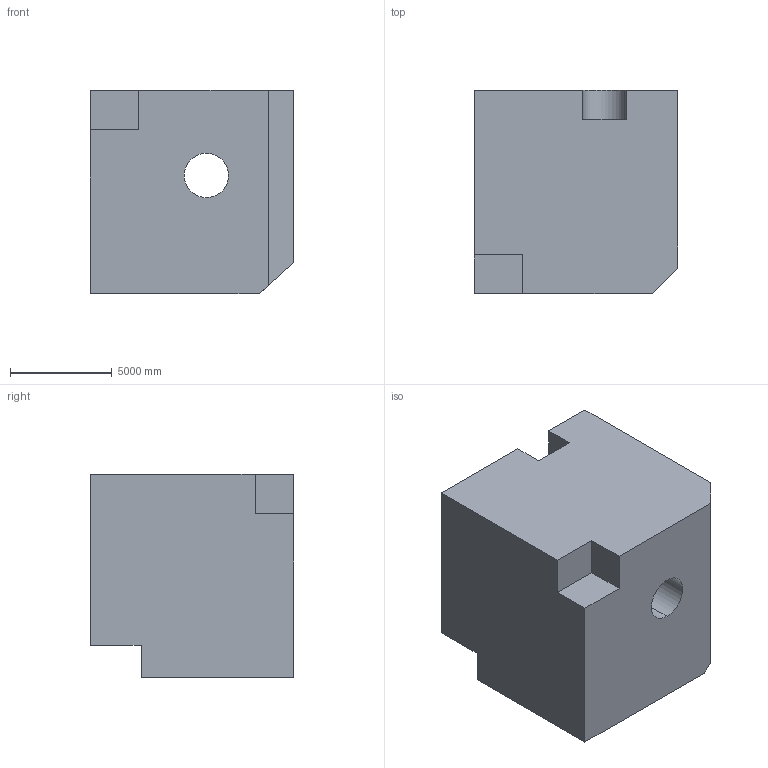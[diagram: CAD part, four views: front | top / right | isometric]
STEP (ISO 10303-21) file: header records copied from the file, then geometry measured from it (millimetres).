
FILE_DESCRIPTION (( 'STEP AP203' ), '1' );
FILE_NAME ('1610.STEP', '2022-08-18T16:08:42', ( 'user' ), ( '' ), 'SwSTEP 2.0', 'SolidWorks 2021', '' );
FILE_SCHEMA (( 'CONFIG_CONTROL_DESIGN' ));
Length unit declared in the file: centimetre
Products named in the file (1): 1610
Bounding box: 10000 x 10000 x 10000 mm (x, y, z)
Volume: 868222272995.1 mm3; surface area: 692809800.5 mm2
Topology: 1 solids, 1 shells, 26 faces, 69 edges, 46 vertices
Faces by surface type: plane 19, cylinder 7
Entity records: 890 total; most frequent: CARTESIAN_POINT 142, DIRECTION 139, ORIENTED_EDGE 138, EDGE_CURVE 69, LINE 53, VECTOR 53, VERTEX_POINT 46, AXIS2_PLACEMENT_3D 43
